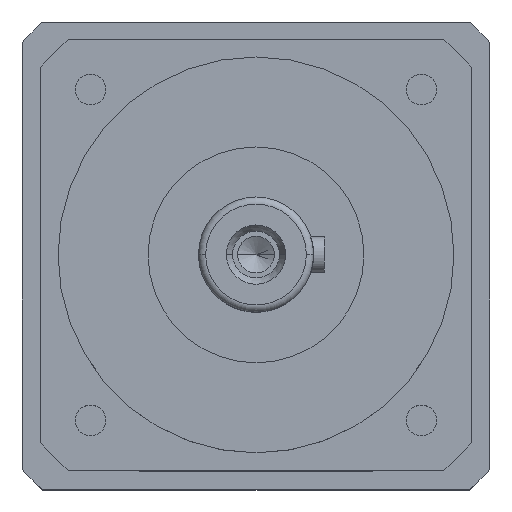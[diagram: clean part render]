
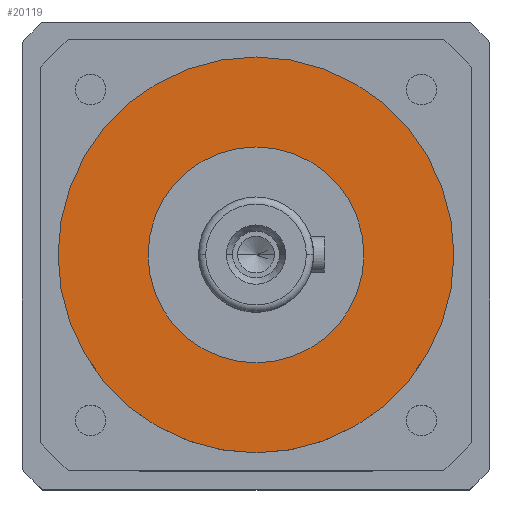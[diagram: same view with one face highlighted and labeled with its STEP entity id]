
A CAD part, top view. The second image highlights one B-rep face of the part: STEP entity #20119.
In plain terms, the highlighted planar face has unit normal (0, 0, 1).
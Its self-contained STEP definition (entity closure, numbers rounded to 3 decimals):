
#498 = AXIS2_PLACEMENT_3D ( 'NONE', #2317, #15604, #4275 ) ;
#546 = PLANE ( 'NONE',  #5717 ) ;
#799 = CARTESIAN_POINT ( 'NONE',  ( -30., 0., -52. ) ) ;
#1023 = CIRCLE ( 'NONE', #22454, 55. ) ;
#1422 = DIRECTION ( 'NONE',  ( 0., 0., 1. ) ) ;
#2317 = CARTESIAN_POINT ( 'NONE',  ( 0., 0., -52. ) ) ;
#4275 = DIRECTION ( 'NONE',  ( 1., 0., 0. ) ) ;
#4409 = ORIENTED_EDGE ( 'NONE', *, *, #21916, .T. ) ;
#5717 = AXIS2_PLACEMENT_3D ( 'NONE', #15794, #19615, #8275 ) ;
#5960 = ORIENTED_EDGE ( 'NONE', *, *, #13360, .T. ) ;
#6387 = ORIENTED_EDGE ( 'NONE', *, *, #23963, .F. ) ;
#6649 = VERTEX_POINT ( 'NONE', #9422 ) ;
#6709 = VERTEX_POINT ( 'NONE', #15225 ) ;
#6979 = FACE_BOUND ( 'NONE', #17624, .T. ) ;
#7501 = EDGE_LOOP ( 'NONE', ( #4409, #5960 ) ) ;
#8097 = CARTESIAN_POINT ( 'NONE',  ( 0., 0., -52. ) ) ;
#8112 = DIRECTION ( 'NONE',  ( 0., 0., 1. ) ) ;
#8275 = DIRECTION ( 'NONE',  ( -1., 0., 0. ) ) ;
#9081 = CARTESIAN_POINT ( 'NONE',  ( 30., 0., -52. ) ) ;
#9117 = CIRCLE ( 'NONE', #23443, 30. ) ;
#9413 = CIRCLE ( 'NONE', #10999, 30. ) ;
#9422 = CARTESIAN_POINT ( 'NONE',  ( 55., 0., -52. ) ) ;
#9991 = DIRECTION ( 'NONE',  ( 1., 0., 0. ) ) ;
#10712 = CIRCLE ( 'NONE', #498, 55. ) ;
#10999 = AXIS2_PLACEMENT_3D ( 'NONE', #8097, #21338, #9991 ) ;
#11018 = VERTEX_POINT ( 'NONE', #799 ) ;
#12838 = CARTESIAN_POINT ( 'NONE',  ( 0., 0., -52. ) ) ;
#13018 = EDGE_CURVE ( 'NONE', #11018, #22787, #9117, .T. ) ;
#13360 = EDGE_CURVE ( 'NONE', #6709, #6649, #1023, .T. ) ;
#14737 = DIRECTION ( 'NONE',  ( 1., 0., 0. ) ) ;
#15225 = CARTESIAN_POINT ( 'NONE',  ( -55., 0., -52. ) ) ;
#15604 = DIRECTION ( 'NONE',  ( 0., 0., 1. ) ) ;
#15794 = CARTESIAN_POINT ( 'NONE',  ( 0., 30., -52. ) ) ;
#16435 = FACE_OUTER_BOUND ( 'NONE', #7501, .T. ) ;
#17624 = EDGE_LOOP ( 'NONE', ( #6387, #24075 ) ) ;
#19457 = CARTESIAN_POINT ( 'NONE',  ( 0., 0., -52. ) ) ;
#19615 = DIRECTION ( 'NONE',  ( 0., 0., -1. ) ) ;
#20119 = ADVANCED_FACE ( 'NONE', ( #6979, #16435 ), #546, .F. ) ;
#21338 = DIRECTION ( 'NONE',  ( 0., 0., 1. ) ) ;
#21356 = DIRECTION ( 'NONE',  ( 1., 0., 0. ) ) ;
#21916 = EDGE_CURVE ( 'NONE', #6649, #6709, #10712, .T. ) ;
#22454 = AXIS2_PLACEMENT_3D ( 'NONE', #19457, #8112, #21356 ) ;
#22787 = VERTEX_POINT ( 'NONE', #9081 ) ;
#23443 = AXIS2_PLACEMENT_3D ( 'NONE', #12838, #1422, #14737 ) ;
#23963 = EDGE_CURVE ( 'NONE', #22787, #11018, #9413, .T. ) ;
#24075 = ORIENTED_EDGE ( 'NONE', *, *, #13018, .F. ) ;
